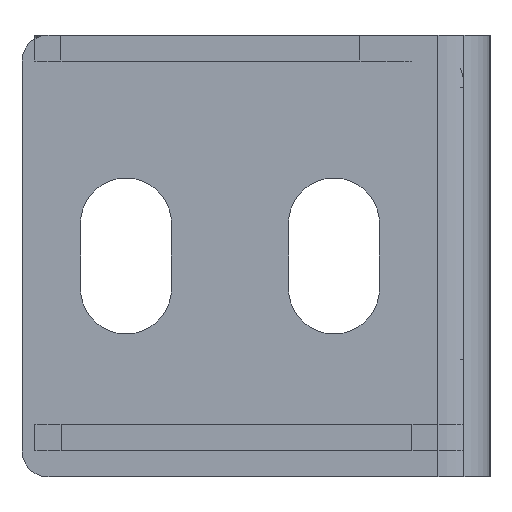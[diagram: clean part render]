
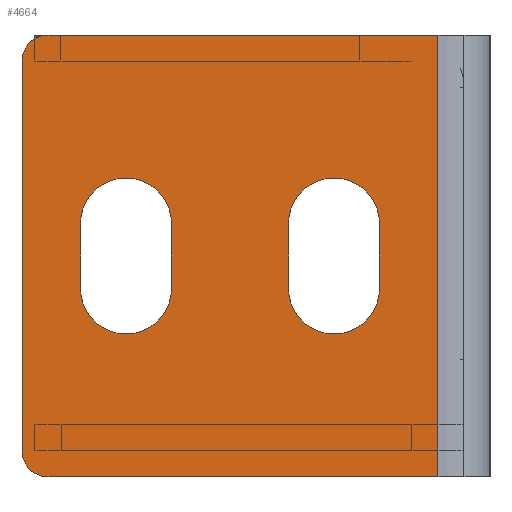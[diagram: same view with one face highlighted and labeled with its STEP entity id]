
A CAD part, left-side view. The second image highlights one B-rep face of the part: STEP entity #4664.
In plain terms, the highlighted planar face has unit normal (-1, 0, 0) as drawn and (0, -1, 0) by its records, which use the part's own axes.
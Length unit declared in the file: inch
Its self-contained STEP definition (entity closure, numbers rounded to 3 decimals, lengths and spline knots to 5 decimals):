
#4201=DIRECTION('',(0.,0.,1.));
#4202=VECTOR('',#4201,0.3125);
#4203=CARTESIAN_POINT('',(1.53125,0.,-0.15625));
#4204=LINE('',#4203,#4202);
#4205=CARTESIAN_POINT('',(1.75,0.,-0.15625));
#4206=DIRECTION('',(0.,-1.,0.));
#4207=DIRECTION('',(-1.,0.,0.));
#4208=AXIS2_PLACEMENT_3D('',#4205,#4206,#4207);
#4210=DIRECTION('',(0.,0.,-1.));
#4211=VECTOR('',#4210,0.3125);
#4212=CARTESIAN_POINT('',(1.96875,0.,0.15625));
#4213=LINE('',#4212,#4211);
#4214=CARTESIAN_POINT('',(1.75,0.,0.15625));
#4215=DIRECTION('',(0.,-1.,0.));
#4216=DIRECTION('',(1.,0.,0.));
#4217=AXIS2_PLACEMENT_3D('',#4214,#4215,#4216);
#4219=CARTESIAN_POINT('',(0.75,0.,-0.15625));
#4220=DIRECTION('',(0.,-1.,0.));
#4221=DIRECTION('',(-1.,0.,0.));
#4222=AXIS2_PLACEMENT_3D('',#4219,#4220,#4221);
#4224=DIRECTION('',(0.,0.,-1.));
#4225=VECTOR('',#4224,0.3125);
#4226=CARTESIAN_POINT('',(0.96875,0.,0.15625));
#4227=LINE('',#4226,#4225);
#4228=CARTESIAN_POINT('',(0.75,0.,0.15625));
#4229=DIRECTION('',(0.,-1.,0.));
#4230=DIRECTION('',(1.,0.,0.));
#4231=AXIS2_PLACEMENT_3D('',#4228,#4229,#4230);
#4233=DIRECTION('',(0.,0.,1.));
#4234=VECTOR('',#4233,0.3125);
#4235=CARTESIAN_POINT('',(0.53125,0.,-0.15625));
#4236=LINE('',#4235,#4234);
#4237=CARTESIAN_POINT('',(2.125,0.,-0.9375));
#4238=DIRECTION('',(0.,-1.,0.));
#4239=DIRECTION('',(0.,0.,-1.));
#4240=AXIS2_PLACEMENT_3D('',#4237,#4238,#4239);
#4242=CARTESIAN_POINT('',(2.125,0.,0.9375));
#4243=DIRECTION('',(0.,-1.,0.));
#4244=DIRECTION('',(1.,0.,0.));
#4245=AXIS2_PLACEMENT_3D('',#4242,#4243,#4244);
#4329=DIRECTION('',(0.,0.,1.));
#4330=VECTOR('',#4329,1.875);
#4331=CARTESIAN_POINT('',(2.25,0.,-0.9375));
#4332=LINE('',#4331,#4330);
#4345=DIRECTION('',(1.,0.,0.));
#4346=VECTOR('',#4345,1.875);
#4347=CARTESIAN_POINT('',(0.25,0.,1.0625));
#4348=LINE('',#4347,#4346);
#4361=DIRECTION('',(0.,0.,1.));
#4362=VECTOR('',#4361,2.125);
#4363=CARTESIAN_POINT('',(0.25,0.,-1.0625));
#4364=LINE('',#4363,#4362);
#4391=DIRECTION('',(1.,0.,0.));
#4392=VECTOR('',#4391,1.875);
#4393=CARTESIAN_POINT('',(0.25,0.,-1.0625));
#4394=LINE('',#4393,#4392);
#4529=CARTESIAN_POINT('',(0.25,0.,-1.0625));
#4530=CARTESIAN_POINT('',(0.25,0.,1.0625));
#4531=VERTEX_POINT('',#4529);
#4532=VERTEX_POINT('',#4530);
#4561=CARTESIAN_POINT('',(1.53125,0.,-0.15625));
#4562=CARTESIAN_POINT('',(1.53125,0.,0.15625));
#4563=VERTEX_POINT('',#4561);
#4564=VERTEX_POINT('',#4562);
#4565=CARTESIAN_POINT('',(1.96875,0.,0.15625));
#4566=VERTEX_POINT('',#4565);
#4567=CARTESIAN_POINT('',(1.96875,0.,-0.15625));
#4568=VERTEX_POINT('',#4567);
#4569=CARTESIAN_POINT('',(0.53125,0.,-0.15625));
#4570=CARTESIAN_POINT('',(0.96875,0.,-0.15625));
#4571=VERTEX_POINT('',#4569);
#4572=VERTEX_POINT('',#4570);
#4573=CARTESIAN_POINT('',(0.53125,0.,0.15625));
#4574=VERTEX_POINT('',#4573);
#4575=CARTESIAN_POINT('',(0.96875,0.,0.15625));
#4576=VERTEX_POINT('',#4575);
#4593=CARTESIAN_POINT('',(2.125,0.,-1.0625));
#4594=CARTESIAN_POINT('',(2.25,0.,-0.9375));
#4595=VERTEX_POINT('',#4593);
#4596=VERTEX_POINT('',#4594);
#4601=CARTESIAN_POINT('',(2.25,0.,0.9375));
#4602=CARTESIAN_POINT('',(2.125,0.,1.0625));
#4603=VERTEX_POINT('',#4601);
#4604=VERTEX_POINT('',#4602);
#4625=CARTESIAN_POINT('',(0.,0.,-1.0625));
#4626=DIRECTION('',(0.,-1.,0.));
#4627=DIRECTION('',(1.,0.,0.));
#4628=AXIS2_PLACEMENT_3D('',#4625,#4626,#4627);
#4629=PLANE('',#4628);
#4631=ORIENTED_EDGE('',*,*,#4630,.F.);
#4633=ORIENTED_EDGE('',*,*,#4632,.F.);
#4635=ORIENTED_EDGE('',*,*,#4634,.T.);
#4637=ORIENTED_EDGE('',*,*,#4636,.T.);
#4639=ORIENTED_EDGE('',*,*,#4638,.F.);
#4641=ORIENTED_EDGE('',*,*,#4640,.F.);
#4642=EDGE_LOOP('',(#4631,#4633,#4635,#4637,#4639,#4641));
#4643=FACE_OUTER_BOUND('',#4642,.F.);
#4645=ORIENTED_EDGE('',*,*,#4644,.T.);
#4647=ORIENTED_EDGE('',*,*,#4646,.F.);
#4649=ORIENTED_EDGE('',*,*,#4648,.T.);
#4651=ORIENTED_EDGE('',*,*,#4650,.F.);
#4652=EDGE_LOOP('',(#4645,#4647,#4649,#4651));
#4653=FACE_BOUND('',#4652,.F.);
#4655=ORIENTED_EDGE('',*,*,#4654,.F.);
#4657=ORIENTED_EDGE('',*,*,#4656,.T.);
#4659=ORIENTED_EDGE('',*,*,#4658,.F.);
#4661=ORIENTED_EDGE('',*,*,#4660,.T.);
#4662=EDGE_LOOP('',(#4655,#4657,#4659,#4661));
#4663=FACE_BOUND('',#4662,.F.);
#4209=CIRCLE('',#4208,0.21875);
#4218=CIRCLE('',#4217,0.21875);
#4223=CIRCLE('',#4222,0.21875);
#4232=CIRCLE('',#4231,0.21875);
#4241=CIRCLE('',#4240,0.125);
#4246=CIRCLE('',#4245,0.125);
#4630=EDGE_CURVE('',#4595,#4596,#4241,.T.);
#4632=EDGE_CURVE('',#4531,#4595,#4394,.T.);
#4634=EDGE_CURVE('',#4531,#4532,#4364,.T.);
#4636=EDGE_CURVE('',#4532,#4604,#4348,.T.);
#4638=EDGE_CURVE('',#4603,#4604,#4246,.T.);
#4640=EDGE_CURVE('',#4596,#4603,#4332,.T.);
#4644=EDGE_CURVE('',#4571,#4572,#4223,.T.);
#4646=EDGE_CURVE('',#4576,#4572,#4227,.T.);
#4648=EDGE_CURVE('',#4576,#4574,#4232,.T.);
#4650=EDGE_CURVE('',#4571,#4574,#4236,.T.);
#4654=EDGE_CURVE('',#4563,#4564,#4204,.T.);
#4656=EDGE_CURVE('',#4563,#4568,#4209,.T.);
#4658=EDGE_CURVE('',#4566,#4568,#4213,.T.);
#4660=EDGE_CURVE('',#4566,#4564,#4218,.T.);
#4664=ADVANCED_FACE('',(#4643,#4653,#4663),#4629,.T.);
